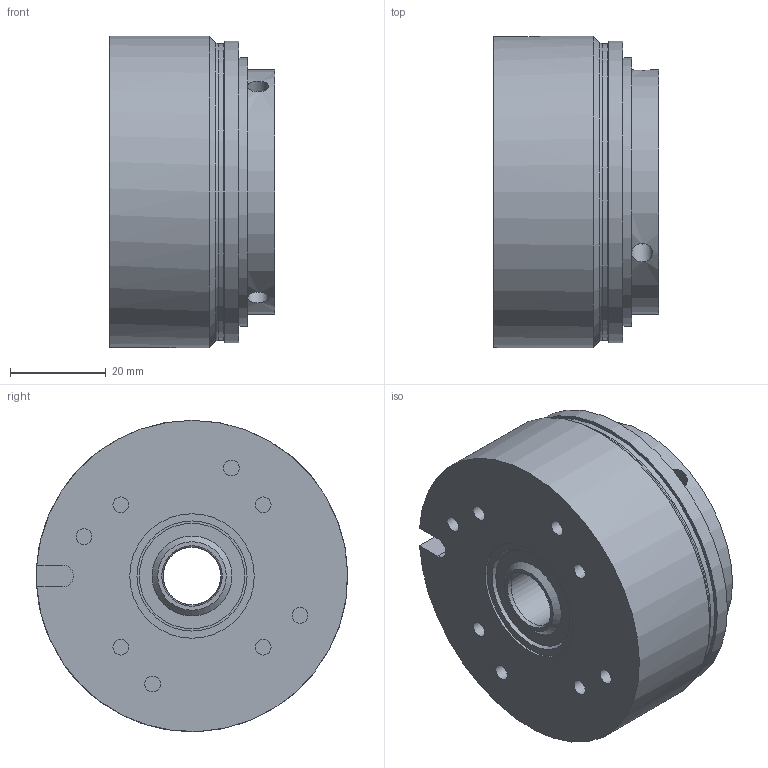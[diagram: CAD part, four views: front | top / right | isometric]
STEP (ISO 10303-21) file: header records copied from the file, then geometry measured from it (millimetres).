
FILE_DESCRIPTION (( 'STEP AP214' ), '1' );
FILE_NAME ('86 61106P00-0002_Index i.STEP', '2019-11-26T14:18:24', ( '' ), ( '' ), 'SwSTEP 2.0', 'SolidWorks 2018', '' );
FILE_SCHEMA (( 'AUTOMOTIVE_DESIGN' ));
Length unit declared in the file: millimetre
Products named in the file (1): 86 61106P00-0002_Index i
Bounding box: 34.6 x 65 x 65 mm (x, y, z)
Volume: 95773.3 mm3; surface area: 24238 mm2
Topology: 2 solids, 2 shells, 58 faces, 106 edges, 68 vertices
Faces by surface type: cylinder 27, plane 26, cone 4, torus 1
Full cylindrical faces by diameter (mm): 3.3 x11, 4.4 x3, 12 x1, 12.2 x1, 22 x2, 23 x1, 26 x1, 50.2 x1, 51 x1, 56 x1, 62 x1, 63 x1, 65 x1
Entity records: 1711 total; most frequent: CARTESIAN_POINT 522, DIRECTION 238, ORIENTED_EDGE 140, AXIS2_PLACEMENT_3D 115, EDGE_LOOP 115, FACE_OUTER_BOUND 85, EDGE_CURVE 70, VERTEX_POINT 63
